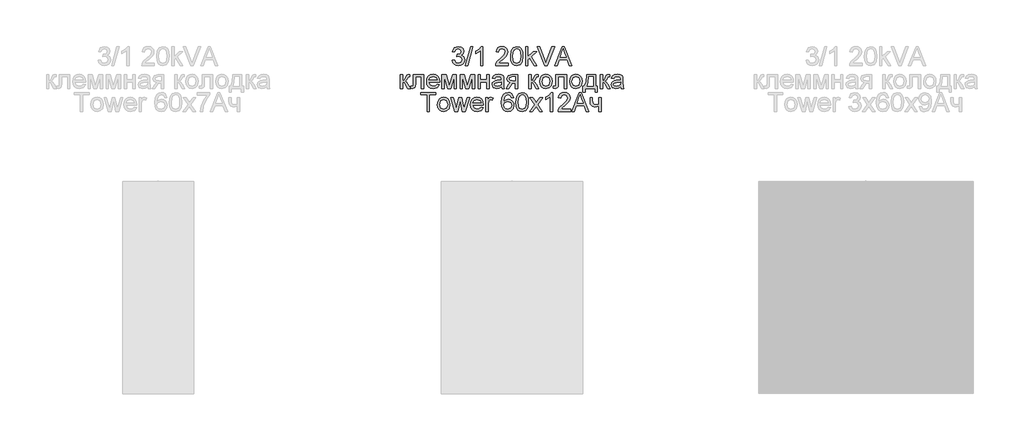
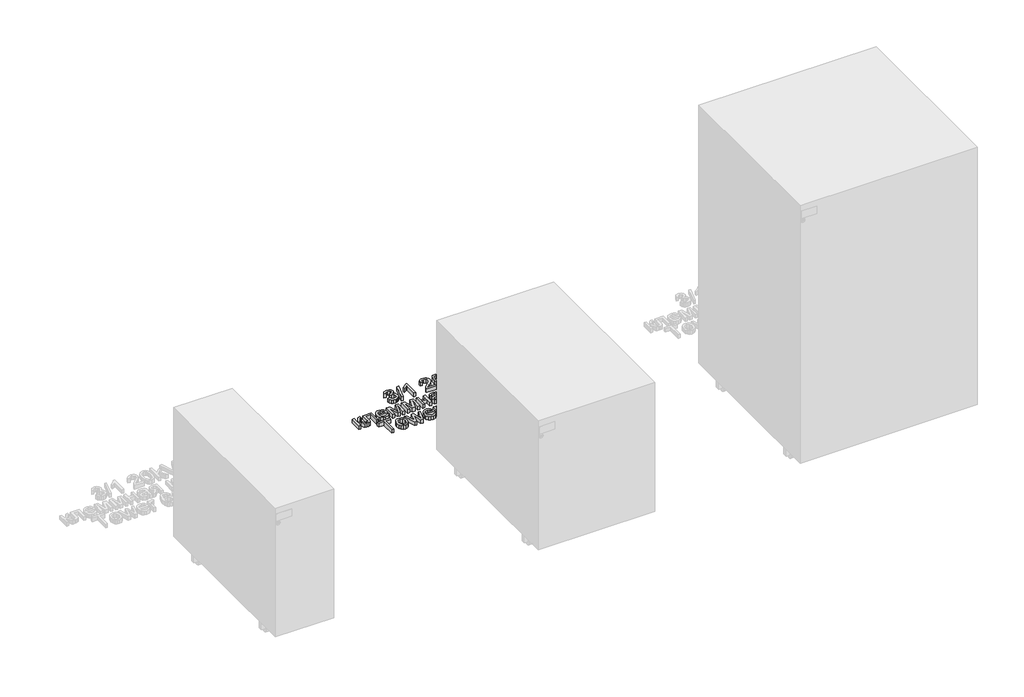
# One storey, part 48 of 74: 1 proxy.
"""IFC4 building model written with IfcOpenShell, lengths in millimetres."""

import ifcopenshell
import ifcopenshell.guid

model = None  # the IFC model being written
_history = None  # IfcOwnerHistory: only IFC2X3 demands one
_inside = {}  # id of a spatial element -> (the spatial element, [elements in it])
_under = {}  # id of a project, library or spatial element -> (it, [spatial elements below it])
_declared = {}  # id of a project -> (the project, [libraries it declares])
_typed = {}  # id of a type object -> (the type object, [elements of that type])
_made_of = {}  # id of a material, layer set ... -> (it, [elements and type objects made of it])


def new_model(schema):
    """Start an empty IFC model of exactly this schema.

    Asked for "IFC4X3", IfcOpenShell would pick the latest addendum, in which some entities
    have other attributes; the version numbers below select the first issue.
    IFC2X3 requires an IfcOwnerHistory on every rooted entity: one is made here for all.
    """
    global model, _history
    if schema == "IFC4X3":
        model = ifcopenshell.file(schema_version=(4, 3, 0, 0))
    else:
        model = ifcopenshell.file(schema=schema)
    _inside.clear()
    _under.clear()
    _declared.clear()
    _typed.clear()
    _made_of.clear()
    _history = None
    if model.schema == "IFC2X3":
        org = make("IfcOrganization", Name="unknown")
        user = make(
            "IfcPersonAndOrganization",
            ThePerson=make("IfcPerson", FamilyName="unknown"),
            TheOrganization=org,
        )
        app = make(
            "IfcApplication",
            ApplicationDeveloper=org,
            Version="unknown",
            ApplicationFullName="unknown",
            ApplicationIdentifier="unknown",
        )
        _history = make(
            "IfcOwnerHistory",
            OwningUser=user,
            OwningApplication=app,
            ChangeAction="ADDED",
            CreationDate=0,
        )
    return model


def make(cls, **values):
    """One entity of the class cls with the attributes given. An attribute that is None is left unset."""
    return model.create_entity(
        cls, **{name: value for name, value in values.items() if value is not None}
    )


def rooted(cls, **values):
    """An entity with a GlobalId (a new one), such as an element, a storey or a relation."""
    return make(cls, GlobalId=ifcopenshell.guid.new(), OwnerHistory=_history, **values)


def si_unit(unit_type, name, prefix=None):
    """IfcSIUnit, for example si_unit("LENGTHUNIT", "METRE", prefix="MILLI")."""
    return make("IfcSIUnit", UnitType=unit_type, Prefix=prefix, Name=name)


def assignment(units):
    """IfcUnitAssignment: the units of a project."""
    return None if units is None else make("IfcUnitAssignment", Units=units)


def point(xyz):
    """IfcCartesianPoint."""
    return None if xyz is None else make("IfcCartesianPoint", Coordinates=xyz)


def direction(xyz):
    """IfcDirection."""
    return None if xyz is None else make("IfcDirection", DirectionRatios=xyz)


def frame(location, z_axis=None, x_axis=None):
    """IfcAxis2Placement3D, a coordinate frame: its origin and axes. An axis left out is left unset."""
    return make(
        "IfcAxis2Placement3D",
        Location=point(location),
        Axis=direction(z_axis),
        RefDirection=direction(x_axis),
    )


def origin():
    """The frame at (0, 0, 0) with its axes left unset."""
    return frame((0.0, 0.0, 0.0))


def origin_with_axes():
    """The frame at (0, 0, 0) with the z axis (0, 0, 1) and the x axis (1, 0, 0) written out."""
    return frame((0.0, 0.0, 0.0), z_axis=(0.0, 0.0, 1.0), x_axis=(1.0, 0.0, 0.0))


def place(relative_to, where):
    """IfcLocalPlacement: puts the frame where relative to a parent placement (None: the world)."""
    return make(
        "IfcLocalPlacement", PlacementRelTo=relative_to, RelativePlacement=where
    )


def context(
    kind, dimensions, precision=None, world=None, true_north=None, identifier=None
):
    """IfcGeometricRepresentationContext, for example the 3D "Model" context."""
    return make(
        "IfcGeometricRepresentationContext",
        ContextIdentifier=identifier,
        ContextType=kind,
        CoordinateSpaceDimension=dimensions,
        Precision=precision,
        WorldCoordinateSystem=world,
        TrueNorth=true_north,
    )


def project(units=None, contexts=None):
    """IfcProject with its units and contexts."""
    return rooted(
        "IfcProject",
        Name="project",
        RepresentationContexts=contexts,
        UnitsInContext=assignment(units),
    )


def spatial(cls, under=None, at=None, **own):
    """A site, building, storey or space (cls), placed at a placement, below another one or the project."""
    s = rooted(cls, ObjectPlacement=at, **own)
    if under is not None:
        _under.setdefault(under.id(), (under, []))[1].append(s)
    return s


def polyline(points):
    """IfcPolyline through the points."""
    return make("IfcPolyline", Points=[point(p) for p in points])


def outline(outer, holes=None, kind="AREA"):
    """IfcArbitraryClosedProfileDef: a profile drawn as a closed curve; with holes, ...WithVoids."""
    if holes is None:
        return make("IfcArbitraryClosedProfileDef", ProfileType=kind, OuterCurve=outer)
    return make(
        "IfcArbitraryProfileDefWithVoids",
        ProfileType=kind,
        OuterCurve=outer,
        InnerCurves=holes,
    )


def extrude(swept, where, along, depth):
    """IfcExtrudedAreaSolid: the profile swept, set in the frame where, extruded along a direction by depth."""
    return make(
        "IfcExtrudedAreaSolid",
        SweptArea=swept,
        Position=where,
        ExtrudedDirection=direction(along),
        Depth=depth,
    )


def shape(context_of_items, identifier, shape_type, items):
    """IfcShapeRepresentation: the items that make up one representation, for example the "Body"."""
    return make(
        "IfcShapeRepresentation",
        ContextOfItems=context_of_items,
        RepresentationIdentifier=identifier,
        RepresentationType=shape_type,
        Items=items,
    )


def made_of(thing, what):
    """Note that an element or type object is made of a material, layer set ...; save() writes the relation."""
    if what is not None:
        _made_of.setdefault(what.id(), (what, []))[1].append(thing)
    return thing


def element(
    cls,
    number,
    at=None,
    inside=None,
    cuts=None,
    type_object=None,
    material=None,
    context=None,
    identifier="Body",
    shape_type=None,
    held_by="IfcProductDefinitionShape",
    body=None,
    shapes=None,
    **own,
):
    """One element of the class cls, such as IfcWall. Its Tag is "e" and its number.

    at: its placement. inside: the storey or other place that contains it. cuts: it is an
    opening in that element (IfcRelVoidsElement). A single representation is given by context,
    identifier, shape_type and body (its items); several are given by shapes. held_by: the class
    of the entity that holds the representations. save() writes the other relations.
    """
    e = rooted(cls, Tag="e%d" % number, ObjectPlacement=at, **own)
    if body is not None:
        shapes = [shape(context, identifier, shape_type, body)]
    if shapes is not None:
        e.Representation = make(held_by, Representations=shapes)
    if inside is not None:
        _inside.setdefault(inside.id(), (inside, []))[1].append(e)
    if cuts is not None:
        rooted(
            "IfcRelVoidsElement", RelatingBuildingElement=cuts, RelatedOpeningElement=e
        )
    if type_object is not None:
        _typed.setdefault(type_object.id(), (type_object, []))[1].append(e)
    return made_of(e, material)


def aggregate(whole, parts):
    """IfcRelAggregates: a whole, such as a stair, and the parts it consists of."""
    return rooted("IfcRelAggregates", RelatingObject=whole, RelatedObjects=parts)


def save(model, path):
    """Write the relations noted so far, then the file.

    IfcRelAggregates (storeys below a building ...), IfcRelContainedInSpatialStructure (elements
    in a storey), IfcRelDefinesByType, IfcRelAssociatesMaterial and IfcRelDeclares: one each for
    every whole, place, type object, material and project.
    """
    for whole, parts in _under.values():
        aggregate(whole, parts)
    for where, things in _inside.values():
        rooted(
            "IfcRelContainedInSpatialStructure",
            RelatedElements=things,
            RelatingStructure=where,
        )
    for kind, things in _typed.values():
        rooted("IfcRelDefinesByType", RelatedObjects=things, RelatingType=kind)
    for what, things in _made_of.values():
        rooted("IfcRelAssociatesMaterial", RelatedObjects=things, RelatingMaterial=what)
    for by, libraries in _declared.values():
        rooted("IfcRelDeclares", RelatingContext=by, RelatedDefinitions=libraries)
    model.write(path)


model = new_model("IFC4")

# Units and contexts
model_context = context("Model", 3, world=origin())
ifc_project = project(units=[si_unit("LENGTHUNIT", "METRE", prefix="MILLI")], contexts=[model_context])

# Site, building, storey
site = spatial("IfcSite", under=ifc_project)
building = spatial("IfcBuilding", under=site)
storey = spatial("IfcBuildingStorey", under=building, Name="Этаж 01", Elevation=0.0)

# Proxy
placement = place(None, origin())
element("IfcBuildingElementProxy", 1, Name="80 мм Arial", ObjectType="80 мм Arial", at=placement, inside=storey, context=model_context, shape_type="SweptSolid", body=[
    extrude(outline(polyline([(14598.3137414, -15105.2863601), (14608.3593724, -15104.0306562), (14613.9021278, -15114.6060373), (14624.2714949, -15117.8433988), (14636.475367, -15113.3895741), (14641.0076732, -15102.3629245), (14636.5146077, -15091.9739369), (14625.0955506, -15087.8634688), (14618.0518367, -15088.9622097), (14619.1701979, -15078.9165786), (14620.7790685, -15079.0343009), (14632.1785053, -15076.150106), (14637.2405615, -15067.2816974), (14633.5715518, -15059.423738), (14624.114532, -15056.3139089), (14614.5397899, -15059.4531685), (14609.6150762, -15068.8709476), (14599.5694452, -15067.6152437), (14607.7903816, -15051.8600842), (14623.7613652, -15046.2682778), (14635.8769456, -15049.0249403), (14644.3529468, -15056.5591635), (14647.2861926, -15066.6930862), (14644.5000996, -15075.9539023), (14636.2595429, -15082.6052088), (14647.2077111, -15089.4723394), (14651.0533042, -15102.5395078), (14649.1305076, -15112.330074), (14643.3621179, -15120.5117696), (14634.6555774, -15126.0447148), (14623.9183282, -15127.8890298), (14614.2062435, -15126.3144949), (14606.2992332, -15121.5908901), (14600.8006236, -15114.3656877), (14598.3137414, -15105.2863601)])), origin_with_axes(), (0.0, 0.0, 1.0), 20.0),
    extrude(outline(polyline([(14654.8204158, -15126.633326), (14677.4230856, -15046.2682778), (14686.487698, -15046.2682778), (14663.8850282, -15126.633326), (14654.8204158, -15126.633326)])), origin_with_axes(), (0.0, 0.0, 1.0), 20.0),
    extrude(outline(polyline([(14728.9069446, -15126.633326), (14718.8613135, -15126.633326), (14718.8613135, -15064.0050951), (14709.3454326, -15070.783934), (14698.7700515, -15075.8558004), (14698.7700515, -15066.3595399), (14713.4951415, -15056.9613812), (14722.4322214, -15046.2682778), (14728.9069446, -15046.2682778), (14728.9069446, -15126.633326)])), origin_with_axes(), (0.0, 0.0, 1.0), 20.0),
    extrude(outline(polyline([(14835.6417741, -15116.5876949), (14835.6417741, -15126.633326), (14782.9022113, -15126.633326), (14783.9813318, -15119.7073343), (14790.0832678, -15109.0436615), (14802.6599269, -15097.3989701), (14820.0043367, -15080.6627918), (14824.3404392, -15069.2829755), (14820.2495914, -15060.0712103), (14809.5662983, -15056.3139089), (14798.4317365, -15059.9829186), (14794.2035461, -15070.1266515), (14784.1579151, -15068.8709476), (14786.5932939, -15059.1539579), (14791.8589116, -15052.0562879), (14799.6800828, -15047.7152804), (14809.7821224, -15046.2682778), (14819.9577384, -15047.8771484), (14827.7641943, -15052.7037602), (14832.7306012, -15059.9142473), (14834.3860702, -15068.6747439), (14832.6006163, -15078.200435), (14826.6654534, -15088.0498623), (14812.2739098, -15101.813554), (14800.71751, -15111.4765878), (14796.1852038, -15116.5876949), (14835.6417741, -15116.5876949)])), origin_with_axes(), (0.0, 0.0, 1.0), 20.0),
    extrude(outline(polyline([(14845.6874051, -15087.0982742), (14848.6402712, -15063.9756645), (14857.410578, -15050.643621), (14872.0571865, -15046.2682778), (14883.7901696, -15048.8581671), (14891.8933837, -15056.323719), (14896.6022732, -15068.2136651), (14898.4269679, -15087.0982742), (14895.5035323, -15110.122782), (14886.7626561, -15123.4842561), (14872.0571865, -15127.8890298), (14861.619148, -15125.9760435), (14853.6925173, -15120.2370843), (14847.6886832, -15106.6450709), (14845.6874051, -15087.0982742)]), holes=[polyline([(14855.7330361, -15087.0786538), (14856.9102585, -15102.8804118), (14860.4419257, -15112.0259582), (14872.0571865, -15117.8433988), (14883.6724474, -15112.0063378), (14887.2041145, -15102.8558863), (14888.3813369, -15087.0786538), (14887.2433553, -15071.6325151), (14883.8294104, -15062.4158449), (14878.5809606, -15057.8393929), (14871.9394643, -15056.3139089), (14860.5988886, -15061.6898911), (14856.9494992, -15071.4804572), (14855.7330361, -15087.0786538)])]), origin_with_axes(), (0.0, 0.0, 1.0), 20.0),
    extrude(outline(polyline([(14909.7283028, -15126.633326), (14909.7283028, -15046.2682778), (14919.7739338, -15046.2682778), (14919.7739338, -15089.452719), (14942.2981221, -15067.6152437), (14956.1893463, -15067.6152437), (14933.3904728, -15089.7274042), (14957.4450501, -15126.633326), (14945.712067, -15126.633326), (14926.1897958, -15096.712257), (14919.7739338, -15102.9319153), (14919.7739338, -15126.633326), (14909.7283028, -15126.633326)])), origin_with_axes(), (0.0, 0.0, 1.0), 20.0),
    extrude(outline(polyline([(15032.2182919, -15126.633326), (15064.2976019, -15046.2682778), (15072.8520846, -15046.2682778), (15104.9313946, -15126.633326), (15094.3167727, -15126.633326), (15085.1148177, -15101.5192484), (15052.0152484, -15101.5192484), (15042.8329138, -15126.633326), (15032.2182919, -15126.633326)]), holes=[polyline([(15055.7038785, -15091.4736174), (15081.445808, -15091.4736174), (15074.2058903, -15071.7159017), (15068.5748432, -15056.3139089), (15063.5716481, -15069.9893089), (15055.7038785, -15091.4736174)])]), origin_with_axes(), (0.0, 0.0, 1.0), 20.0),
    extrude(outline(polyline([(14991.2313326, -15126.633326), (14959.2501245, -15046.2682778), (14970.0020889, -15046.2682778), (14991.4079159, -15104.1679988), (14995.7440184, -15117.2155469), (15000.0212597, -15104.1679988), (15021.4859479, -15046.2682778), (15032.2379123, -15046.2682778), (15001.6105099, -15126.633326), (14991.2313326, -15126.633326)])), origin_with_axes(), (0.0, 0.0, 1.0), 20.0),
    extrude(outline(polyline([(14379.1934148, -15165.195098), (14389.2390459, -15165.195098), (14389.2390459, -15190.3091756), (14395.9688338, -15188.5041012), (14401.4821587, -15177.9875813), (14406.0635158, -15168.9131587), (14410.1053126, -15165.9602926), (14417.4531423, -15165.195098), (14419.3759389, -15165.195098), (14419.3759389, -15175.2995902), (14416.6683274, -15175.240729), (14411.7632341, -15176.3002292), (14408.3100485, -15182.9122949), (14404.2584414, -15190.0639209), (14398.5783434, -15193.5661575), (14404.9157239, -15197.4755168), (14411.1353822, -15205.7111684), (14421.8873467, -15224.2131802), (14410.4682895, -15224.2131802), (14399.9321492, -15206.1035759), (14394.6346485, -15198.4418202), (14389.2390459, -15196.5876949), (14389.2390459, -15224.2131802), (14379.1934148, -15224.2131802), (14379.1934148, -15165.195098)])), origin_with_axes(), (0.0, 0.0, 1.0), 20.0),
    extrude(outline(polyline([(14433.1886815, -15165.195098), (14478.3940211, -15165.195098), (14478.3940211, -15224.1543191), (14468.3483901, -15224.1543191), (14468.3483901, -15175.240729), (14443.2343126, -15175.240729), (14443.2343126, -15203.3959644), (14442.5574097, -15216.3846514), (14438.839349, -15221.8685457), (14430.0494219, -15224.2131802), (14421.8873467, -15223.7030505), (14421.8873467, -15214.1675492), (14426.3804121, -15214.1675492), (14430.9225285, -15213.5495075), (14432.737413, -15211.5874702), (14433.1886815, -15202.8269736), (14433.1886815, -15165.195098)])), origin_with_axes(), (0.0, 0.0, 1.0), 20.0),
    extrude(outline(polyline([(14534.7829733, -15206.633326), (14544.6324006, -15207.8890298), (14535.4206355, -15220.8580964), (14518.2626192, -15225.4688841), (14506.4756801, -15223.4798688), (14497.4061626, -15217.5128228), (14491.6230577, -15207.9552486), (14489.695356, -15195.1946485), (14491.642678, -15182.0048527), (14497.4846441, -15172.1407101), (14506.4315342, -15165.9897231), (14517.6936284, -15163.9393941), (14528.6050084, -15165.984818), (14537.3238116, -15172.1210897), (14543.0406979, -15181.9656119), (14544.9463266, -15195.1357873), (14544.8874655, -15197.8433988), (14499.740987, -15197.8433988), (14505.5191869, -15210.8909469), (14518.4588229, -15215.4232531), (14528.3082502, -15213.3238732), (14534.7829733, -15206.633326)]), holes=[polyline([(14499.740987, -15187.7977678), (14534.9006956, -15187.7977678), (14530.8785191, -15178.6939147), (14517.6543876, -15173.9850252), (14505.2837424, -15177.7423266), (14499.740987, -15187.7977678)])]), origin_with_axes(), (0.0, 0.0, 1.0), 20.0),
    extrude(outline(polyline([(14554.9919576, -15165.195098), (14572.2775063, -15165.195098), (14585.5997396, -15212.4409564), (14599.9618527, -15165.195098), (14616.5214476, -15165.195098), (14616.5214476, -15224.2131802), (14606.4758166, -15224.2131802), (14606.4758166, -15176.6926366), (14592.035222, -15224.2131802), (14578.8503313, -15224.2131802), (14565.0375886, -15174.4166734), (14565.0375886, -15224.2131802), (14554.9919576, -15224.2131802), (14554.9919576, -15165.195098)])), origin_with_axes(), (0.0, 0.0, 1.0), 20.0),
    extrude(outline(polyline([(14631.5898941, -15165.195098), (14648.8754428, -15165.195098), (14662.1976761, -15212.4409564), (14676.5597892, -15165.195098), (14693.1193841, -15165.195098), (14693.1193841, -15224.2131802), (14683.073753, -15224.2131802), (14683.073753, -15176.6926366), (14668.6331585, -15224.2131802), (14655.4482678, -15224.2131802), (14641.6355251, -15174.4166734), (14641.6355251, -15224.2131802), (14631.5898941, -15224.2131802), (14631.5898941, -15165.195098)])), origin_with_axes(), (0.0, 0.0, 1.0), 20.0),
    extrude(outline(polyline([(14708.1878306, -15165.195098), (14718.2334616, -15165.195098), (14718.2334616, -15187.7977678), (14744.603243, -15187.7977678), (14744.603243, -15165.195098), (14754.648874, -15165.195098), (14754.648874, -15224.2131802), (14744.603243, -15224.2131802), (14744.603243, -15197.8433988), (14718.2334616, -15197.8433988), (14718.2334616, -15224.2131802), (14708.1878306, -15224.2131802), (14708.1878306, -15165.195098)])), origin_with_axes(), (0.0, 0.0, 1.0), 20.0),
    extrude(outline(polyline([(14807.3884369, -15216.678957), (14797.6469216, -15223.4872264), (14786.885147, -15225.4688841), (14772.2973996, -15220.7011335), (14767.2059128, -15208.5168818), (14769.1287094, -15200.5706307), (14774.1809554, -15194.802241), (14781.2148592, -15191.5060183), (14789.9066844, -15189.9952496), (14807.3295757, -15186.5420639), (14807.3884369, -15184.3053414), (14804.6219643, -15176.8888404), (14793.5168331, -15173.9850252), (14783.3534798, -15175.9176319), (14778.5072477, -15182.7749523), (14768.4616167, -15181.5192484), (14772.8075293, -15171.7090619), (14781.5582157, -15165.9602926), (14794.8117777, -15163.9393941), (14806.9862192, -15165.7248481), (14813.86316, -15170.2081033), (14816.9435585, -15177.026183), (14817.4340679, -15185.8161101), (14817.4340679, -15198.3142878), (14817.9441976, -15215.7666096), (14819.9454756, -15224.2131802), (14809.8998446, -15224.2131802), (14807.3884369, -15216.678957)]), holes=[polyline([(14807.3884369, -15196.5876949), (14791.1820087, -15199.6680935), (14782.5392344, -15201.2965845), (14778.6249699, -15203.9453348), (14777.2515438, -15207.8105483), (14780.2436507, -15213.2453917), (14789.0237677, -15215.4232531), (14799.1871209, -15213.0197574), (14805.7403255, -15207.2023168), (14807.3295757, -15199.432649), (14807.3884369, -15196.5876949)])]), origin_with_axes(), (0.0, 0.0, 1.0), 20.0),
    extrude(outline(polyline([(14876.4521501, -15165.195098), (14876.4521501, -15224.2131802), (14866.4065191, -15224.2131802), (14866.4065191, -15201.6105105), (14860.932435, -15201.6105105), (14853.4766932, -15202.8858347), (14846.47222, -15211.4599377), (14838.4671078, -15224.2131802), (14826.8518469, -15224.2131802), (14836.9367187, -15208.0852336), (14845.4912014, -15199.7269546), (14833.797459, -15193.6250186), (14829.9911066, -15182.2452022), (14835.1905055, -15169.9236079), (14850.2393317, -15165.195098), (14876.4521501, -15165.195098)]), holes=[polyline([(14866.4065191, -15175.240729), (14853.1627672, -15175.240729), (14842.4402334, -15177.5657432), (14840.0367377, -15183.0103968), (14843.578215, -15189.4949301), (14856.1254436, -15191.5648794), (14866.4065191, -15191.5648794), (14866.4065191, -15175.240729)])]), origin_with_axes(), (0.0, 0.0, 1.0), 20.0),
    extrude(outline(polyline([(14922.9131935, -15165.195098), (14932.9588245, -15165.195098), (14932.9588245, -15190.3091756), (14939.6886125, -15188.5041012), (14945.2019373, -15177.9875813), (14949.7832945, -15168.9131587), (14953.8250913, -15165.9602926), (14961.172921, -15165.195098), (14963.0957176, -15165.195098), (14963.0957176, -15175.2995902), (14960.3881061, -15175.240729), (14955.4830128, -15176.3002292), (14952.0298272, -15182.9122949), (14947.9782201, -15190.0639209), (14942.2981221, -15193.5661575), (14948.6355026, -15197.4755168), (14954.8551609, -15205.7111684), (14965.6071253, -15224.2131802), (14954.1880682, -15224.2131802), (14943.6519279, -15206.1035759), (14938.3544271, -15198.4418202), (14932.9588245, -15196.5876949), (14932.9588245, -15224.2131802), (14922.9131935, -15224.2131802), (14922.9131935, -15165.195098)])), origin_with_axes(), (0.0, 0.0, 1.0), 20.0),
    extrude(outline(polyline([(14969.374237, -15194.7041391), (14971.5471933, -15180.4744636), (14978.0660622, -15170.4729784), (14986.1202254, -15165.5727902), (14995.7636388, -15163.9393941), (15006.3169469, -15165.9284095), (15014.7463497, -15171.8954554), (15020.2719373, -15181.3696431), (15022.1137998, -15193.8800835), (15018.8568179, -15211.7542433), (15009.3703675, -15221.8685457), (14995.7636388, -15225.4688841), (14985.0827982, -15223.4872264), (14976.6632056, -15217.5422534), (14971.1964791, -15207.8694095), (14969.374237, -15194.7041391)]), holes=[polyline([(14979.419868, -15194.6845188), (14984.0698964, -15210.2532848), (14995.7636388, -15215.4232531), (15007.4181404, -15210.2238542), (15012.0681688, -15194.3705928), (15007.3887098, -15179.1549935), (14995.7636388, -15173.9850252), (14984.0698964, -15179.1353731), (14979.419868, -15194.6845188)])]), origin_with_axes(), (0.0, 0.0, 1.0), 20.0),
    extrude(outline(polyline([(15038.4379502, -15165.195098), (15083.6432898, -15165.195098), (15083.6432898, -15224.1543191), (15073.5976588, -15224.1543191), (15073.5976588, -15175.240729), (15048.4835812, -15175.240729), (15048.4835812, -15203.3959644), (15047.8066783, -15216.3846514), (15044.0886176, -15221.8685457), (15035.2986905, -15224.2131802), (15027.1366153, -15223.7030505), (15027.1366153, -15214.1675492), (15031.6296807, -15214.1675492), (15036.1717971, -15213.5495075), (15037.9866816, -15211.5874702), (15038.4379502, -15202.8269736), (15038.4379502, -15165.195098)])), origin_with_axes(), (0.0, 0.0, 1.0), 20.0),
    extrude(outline(polyline([(15096.2003285, -15194.7041391), (15098.3732849, -15180.4744636), (15104.8921538, -15170.4729784), (15112.946317, -15165.5727902), (15122.5897303, -15163.9393941), (15133.1430385, -15165.9284095), (15141.5724413, -15171.8954554), (15147.0980288, -15181.3696431), (15148.9398914, -15193.8800835), (15145.6829094, -15211.7542433), (15136.1964591, -15221.8685457), (15122.5897303, -15225.4688841), (15111.9088897, -15223.4872264), (15103.4892971, -15217.5422534), (15098.0225707, -15207.8694095), (15096.2003285, -15194.7041391)]), holes=[polyline([(15106.2459596, -15194.6845188), (15110.895988, -15210.2532848), (15122.5897303, -15215.4232531), (15134.2442319, -15210.2238542), (15138.8942603, -15194.3705928), (15134.2148014, -15179.1549935), (15122.5897303, -15173.9850252), (15110.895988, -15179.1353731), (15106.2459596, -15194.6845188)])]), origin_with_axes(), (0.0, 0.0, 1.0), 20.0),
    extrude(outline(polyline([(15169.0311534, -15165.195098), (15206.7022697, -15165.195098), (15206.7022697, -15214.1675492), (15214.236493, -15214.1675492), (15214.236493, -15240.5373306), (15204.1908619, -15240.5373306), (15204.1908619, -15224.2131802), (15162.752634, -15224.2131802), (15162.752634, -15240.5373306), (15152.707003, -15240.5373306), (15152.707003, -15214.1675492), (15158.9855224, -15214.1675492), (15166.7453799, -15195.0082549), (15169.0311534, -15165.195098)]), holes=[polyline([(15177.8210805, -15175.240729), (15175.4666358, -15198.1278942), (15170.2868573, -15214.1675492), (15196.6566387, -15214.1675492), (15196.6566387, -15175.240729), (15177.8210805, -15175.240729)])]), origin_with_axes(), (0.0, 0.0, 1.0), 20.0),
    extrude(outline(polyline([(15225.5378279, -15165.195098), (15235.5834589, -15165.195098), (15235.5834589, -15190.3091756), (15242.3132468, -15188.5041012), (15247.8265717, -15177.9875813), (15252.4079288, -15168.9131587), (15256.4497256, -15165.9602926), (15263.7975554, -15165.195098), (15265.7203519, -15165.195098), (15265.7203519, -15175.2995902), (15263.0127404, -15175.240729), (15258.1076472, -15176.3002292), (15254.6544615, -15182.9122949), (15250.6028545, -15190.0639209), (15244.9227565, -15193.5661575), (15251.260137, -15197.4755168), (15257.4797952, -15205.7111684), (15268.2317597, -15224.2131802), (15256.8127025, -15224.2131802), (15246.2765622, -15206.1035759), (15240.9790615, -15198.4418202), (15235.5834589, -15196.5876949), (15235.5834589, -15224.2131802), (15225.5378279, -15224.2131802), (15225.5378279, -15165.195098)])), origin_with_axes(), (0.0, 0.0, 1.0), 20.0),
    extrude(outline(polyline([(15312.1813954, -15216.678957), (15302.4398801, -15223.4872264), (15291.6781055, -15225.4688841), (15277.0903581, -15220.7011335), (15271.9988713, -15208.5168818), (15273.9216679, -15200.5706307), (15278.9739139, -15194.802241), (15286.0078177, -15191.5060183), (15294.6996429, -15189.9952496), (15312.1225342, -15186.5420639), (15312.1813954, -15184.3053414), (15309.4149228, -15176.8888404), (15298.3097916, -15173.9850252), (15288.1464383, -15175.9176319), (15283.3002062, -15182.7749523), (15273.2545752, -15181.5192484), (15277.6004878, -15171.7090619), (15286.3511742, -15165.9602926), (15299.6047362, -15163.9393941), (15311.7791777, -15165.7248481), (15318.6561185, -15170.2081033), (15321.736517, -15177.026183), (15322.2270264, -15185.8161101), (15322.2270264, -15198.3142878), (15322.7371561, -15215.7666096), (15324.7384341, -15224.2131802), (15314.6928031, -15224.2131802), (15312.1813954, -15216.678957)]), holes=[polyline([(15312.1813954, -15196.5876949), (15295.9749672, -15199.6680935), (15287.3321929, -15201.2965845), (15283.4179284, -15203.9453348), (15282.0445023, -15207.8105483), (15285.0366092, -15213.2453917), (15293.8167262, -15215.4232531), (15303.9800794, -15213.0197574), (15310.533284, -15207.2023168), (15312.1225342, -15199.432649), (15312.1813954, -15196.5876949)])]), origin_with_axes(), (0.0, 0.0, 1.0), 20.0),
    extrude(outline(polyline([(14492.2067638, -15321.7930345), (14492.2067638, -15251.4736174), (14465.8369823, -15251.4736174), (14465.8369823, -15241.4279864), (14528.6221762, -15241.4279864), (14528.6221762, -15251.4736174), (14502.2523948, -15251.4736174), (14502.2523948, -15321.7930345), (14492.2067638, -15321.7930345)])), origin_with_axes(), (0.0, 0.0, 1.0), 20.0),
    extrude(outline(polyline([(14536.1563995, -15292.2839934), (14538.3293558, -15278.0543178), (14544.8482247, -15268.0528327), (14552.9023879, -15263.1526445), (14562.5458012, -15261.5192484), (14573.0991094, -15263.5082637), (14581.5285122, -15269.4753097), (14587.0540998, -15278.9494974), (14588.8959623, -15291.4599377), (14585.6389803, -15309.3340976), (14576.15253, -15319.4483999), (14562.5458012, -15323.0487384), (14551.8649606, -15321.0670807), (14543.445368, -15315.1221077), (14537.9786416, -15305.4492637), (14536.1563995, -15292.2839934)]), holes=[polyline([(14546.2020305, -15292.264373), (14550.8520589, -15307.8331391), (14562.5458012, -15313.0031074), (14574.2003028, -15307.8037085), (14578.8503313, -15291.9504471), (14574.1708723, -15276.7348477), (14562.5458012, -15271.5648794), (14550.8520589, -15276.7152274), (14546.2020305, -15292.264373)])]), origin_with_axes(), (0.0, 0.0, 1.0), 20.0),
    extrude(outline(polyline([(14609.9878633, -15321.7930345), (14592.035222, -15262.7749523), (14602.4732604, -15262.7749523), (14612.6562341, -15297.208707), (14615.6973919, -15309.510681), (14618.1891793, -15297.6599756), (14626.2923934, -15262.7749523), (14638.2608209, -15262.7749523), (14646.3247943, -15297.5618738), (14648.5418964, -15308.2942178), (14651.7203969, -15296.9732626), (14661.9229909, -15262.7749523), (14672.4002701, -15262.7749523), (14654.3102861, -15321.7930345), (14642.1652752, -15321.7930345), (14634.4544686, -15287.1826964), (14632.217746, -15276.3914912), (14622.2702169, -15321.7930345), (14609.9878633, -15321.7930345)])), origin_with_axes(), (0.0, 0.0, 1.0), 20.0),
    extrude(outline(polyline([(14720.6271471, -15304.2131802), (14730.4765744, -15305.4688841), (14721.2648092, -15318.4379507), (14704.106793, -15323.0487384), (14692.3198539, -15321.0597231), (14683.2503364, -15315.0926771), (14677.4672314, -15305.5351029), (14675.5395298, -15292.7745027), (14677.4868518, -15279.5847069), (14683.3288179, -15269.7205644), (14692.275708, -15263.5695774), (14703.5378022, -15261.5192484), (14714.4491821, -15263.5646723), (14723.1679854, -15269.700944), (14728.8848716, -15279.5454662), (14730.7905004, -15292.7156416), (14730.7316392, -15295.4232531), (14685.5851608, -15295.4232531), (14691.3633607, -15308.4708012), (14704.3029967, -15313.0031074), (14714.152424, -15310.9037275), (14720.6271471, -15304.2131802)]), holes=[polyline([(14685.5851608, -15285.3776221), (14720.7448694, -15285.3776221), (14716.7226929, -15276.273769), (14703.4985614, -15271.5648794), (14691.1279162, -15275.3221809), (14685.5851608, -15285.3776221)])]), origin_with_axes(), (0.0, 0.0, 1.0), 20.0),
    extrude(outline(polyline([(14740.8361314, -15321.7930345), (14740.8361314, -15262.7749523), (14749.6260585, -15262.7749523), (14749.6260585, -15271.5060183), (14755.8653372, -15263.4616654), (14762.1438565, -15261.5192484), (14772.2287283, -15264.6192674), (14768.8736445, -15273.6250186), (14761.8103102, -15271.5648794), (14756.1302122, -15273.5465371), (14752.5102534, -15279.0402416), (14750.8817624, -15290.7732247), (14750.8817624, -15321.7930345), (14740.8361314, -15321.7930345)])), origin_with_axes(), (0.0, 0.0, 1.0), 20.0),
    extrude(outline(polyline([(14858.8722958, -15262.7749523), (14848.8266648, -15264.0306562), (14845.0203124, -15255.6527569), (14834.955061, -15251.4736174), (14825.8904487, -15253.9065437), (14819.0331283, -15263.0398273), (14816.178364, -15280.9434178), (14825.0369624, -15272.9284954), (14836.0145612, -15270.3091756), (14845.2949976, -15272.0995346), (14853.0842857, -15277.4706117), (14858.3670712, -15285.6768328), (14860.1279997, -15295.9726235), (14856.8121566, -15309.8344171), (14847.6886832, -15319.6446037), (14834.5234128, -15323.0487384), (14823.1264286, -15320.7923955), (14814.0495535, -15314.0233668), (14808.1119381, -15302.0745596), (14806.132733, -15284.2788812), (14808.3302148, -15264.2710057), (14814.9226601, -15250.5907006), (14823.9235063, -15243.7186649), (14835.582913, -15241.4279864), (14844.3973656, -15242.8455583), (14851.4557948, -15247.0982742), (14858.8722958, -15262.7749523)]), holes=[polyline([(14816.178364, -15295.8156606), (14818.5033782, -15304.517296), (14824.6837957, -15310.8350561), (14833.7385979, -15313.0031074), (14845.579493, -15308.5100419), (14850.0823687, -15296.3061699), (14845.6383542, -15284.6222377), (14833.3265701, -15280.3548066), (14821.1717489, -15284.6222377), (14816.178364, -15295.8156606)])]), origin_with_axes(), (0.0, 0.0, 1.0), 20.0),
    extrude(outline(polyline([(14868.9179268, -15282.2579828), (14871.870793, -15259.1353731), (14880.6410997, -15245.8033296), (14895.2877082, -15241.4279864), (14907.0206913, -15244.0178756), (14915.1239054, -15251.4834276), (14919.832795, -15263.3733737), (14921.6574897, -15282.2579828), (14918.7340541, -15305.2824906), (14909.9931779, -15318.6439646), (14895.2877082, -15323.0487384), (14884.8496698, -15321.135752), (14876.923039, -15315.3967929), (14870.9192049, -15301.8047794), (14868.9179268, -15282.2579828)]), holes=[polyline([(14878.9635578, -15282.2383624), (14880.1407802, -15298.0401204), (14883.6724474, -15307.1856668), (14895.2877082, -15313.0031074), (14906.9029691, -15307.1660464), (14910.4346363, -15298.0155949), (14911.6118586, -15282.2383624), (14910.473877, -15266.7922237), (14907.0599321, -15257.5755534), (14901.8114823, -15252.9991014), (14895.169986, -15251.4736174), (14883.8294104, -15256.8495996), (14880.180021, -15266.6401658), (14878.9635578, -15282.2383624)])]), origin_with_axes(), (0.0, 0.0, 1.0), 20.0),
    extrude(outline(polyline([(14926.6803052, -15321.7930345), (14948.1449933, -15292.1270304), (14927.936009, -15262.7749523), (14940.0221588, -15262.7749523), (14949.7734843, -15276.9016209), (14954.3254108, -15283.5725478), (14958.2691058, -15278.118084), (14969.374237, -15262.7749523), (14981.4603868, -15262.7749523), (14960.2311431, -15292.1270304), (14980.6755719, -15321.7930345), (14968.589422, -15321.7930345), (14956.2874481, -15303.9581154), (14954.0311052, -15300.7011335), (14938.766455, -15321.7930345), (14926.6803052, -15321.7930345)])), origin_with_axes(), (0.0, 0.0, 1.0), 20.0),
    extrude(outline(polyline([(15024.6252076, -15321.7930345), (15014.5795765, -15321.7930345), (15014.5795765, -15259.1648037), (15005.0636956, -15265.9436426), (14994.4883145, -15271.015509), (14994.4883145, -15261.5192484), (15009.2134045, -15252.1210897), (15018.1504844, -15241.4279864), (15024.6252076, -15241.4279864), (15024.6252076, -15321.7930345)])), origin_with_axes(), (0.0, 0.0, 1.0), 20.0),
    extrude(outline(polyline([(15099.9674402, -15311.7474035), (15099.9674402, -15321.7930345), (15047.2278773, -15321.7930345), (15048.3069979, -15314.8670428), (15054.4089339, -15304.2033701), (15066.985593, -15292.5586786), (15084.3300028, -15275.8225004), (15088.6661053, -15264.442684), (15084.5752575, -15255.2309189), (15073.8919643, -15251.4736174), (15062.7574026, -15255.1426272), (15058.5292122, -15265.2863601), (15048.4835812, -15264.0306562), (15050.91896, -15254.3136664), (15056.1845776, -15247.2159965), (15064.0057489, -15242.8749889), (15074.1077885, -15241.4279864), (15084.2834044, -15243.036857), (15092.0898604, -15247.8634688), (15097.0562673, -15255.0739559), (15098.7117363, -15263.8344524), (15096.9262823, -15273.3601436), (15090.9911195, -15283.2095709), (15076.5995758, -15296.9732626), (15065.0431761, -15306.6362963), (15060.5108699, -15311.7474035), (15099.9674402, -15311.7474035)])), origin_with_axes(), (0.0, 0.0, 1.0), 20.0),
    extrude(outline(polyline([(15104.4212649, -15321.7930345), (15136.5005748, -15241.4279864), (15145.0550575, -15241.4279864), (15177.1343675, -15321.7930345), (15166.5197456, -15321.7930345), (15157.3177907, -15296.678957), (15124.2182213, -15296.678957), (15115.0358867, -15321.7930345), (15104.4212649, -15321.7930345)]), holes=[polyline([(15127.9068514, -15286.633326), (15153.6487809, -15286.633326), (15146.4088632, -15266.8756103), (15140.7778162, -15251.4736174), (15135.774621, -15265.1490174), (15127.9068514, -15286.633326)])]), origin_with_axes(), (0.0, 0.0, 1.0), 20.0),
    extrude(outline(polyline([(15182.843896, -15262.7749523), (15192.8895271, -15262.7749523), (15192.8895271, -15274.0959076), (15193.7037725, -15284.7105294), (15197.618037, -15290.4592987), (15205.3877047, -15292.9118453), (15219.2593085, -15289.8706875), (15219.2593085, -15262.7749523), (15229.3049395, -15262.7749523), (15229.3049395, -15321.7930345), (15219.2593085, -15321.7930345), (15219.2593085, -15299.5042907), (15202.6997136, -15302.9574764), (15191.310087, -15299.3571379), (15184.6097296, -15290.5377802), (15182.843896, -15279.059862), (15182.843896, -15262.7749523)])), origin_with_axes(), (0.0, 0.0, 1.0), 20.0),
])

save(model, "model.ifc")
